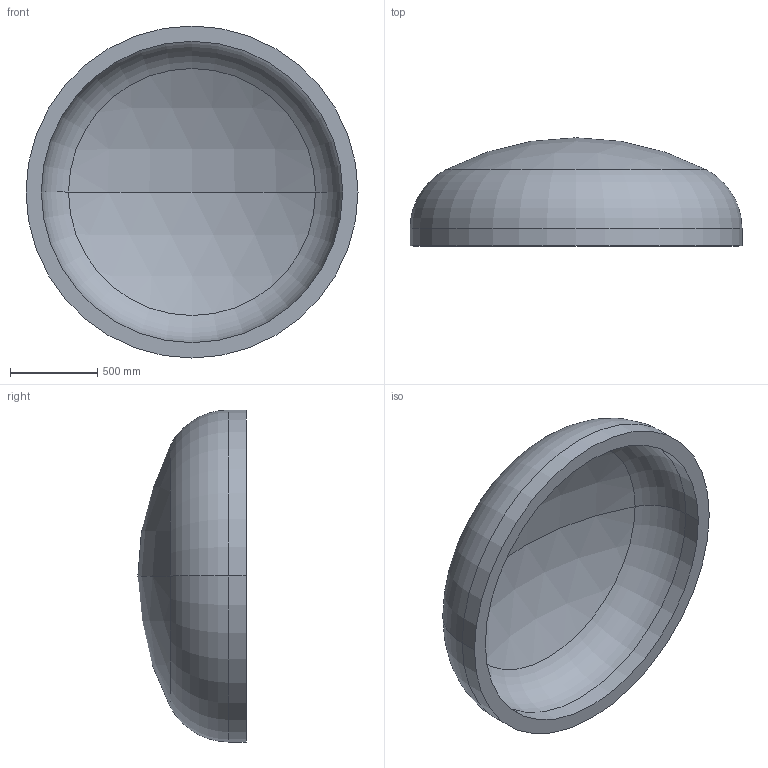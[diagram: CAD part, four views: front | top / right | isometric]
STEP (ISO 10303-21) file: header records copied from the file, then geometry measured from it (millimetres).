
FILE_DESCRIPTION (( 'STEP AP203' ), '1' );
FILE_NAME ('DIN 28013 Korbbogenform_-_Boden DIN 28013 - 1900 x 100 - I - s=88.step', '2016-07-01T13:22:30', ( '' ), ( '' ), 'SwSTEP 2.0', 'SolidWorks 2013', '' );
FILE_SCHEMA (( 'CONFIG_CONTROL_DESIGN' ));
Length unit declared in the file: millimetre
Products named in the file (1): DIN 28013 Korbbogenform_-_Boden DIN 28013 - 1900 x 100 - I - s=88
Bounding box: 1900 x 619.09 x 1900 mm (x, y, z)
Volume: 375039795.7 mm3; surface area: 9040794.1 mm2
Topology: 1 solids, 1 shells, 13 faces, 24 edges, 14 vertices
Faces by surface type: torus 4, cylinder 4, sphere 4, plane 1
Entity records: 407 total; most frequent: DIRECTION 72, CARTESIAN_POINT 52, ORIENTED_EDGE 48, AXIS2_PLACEMENT_3D 34, EDGE_CURVE 24, CIRCLE 20, EDGE_LOOP 14, VERTEX_POINT 14
